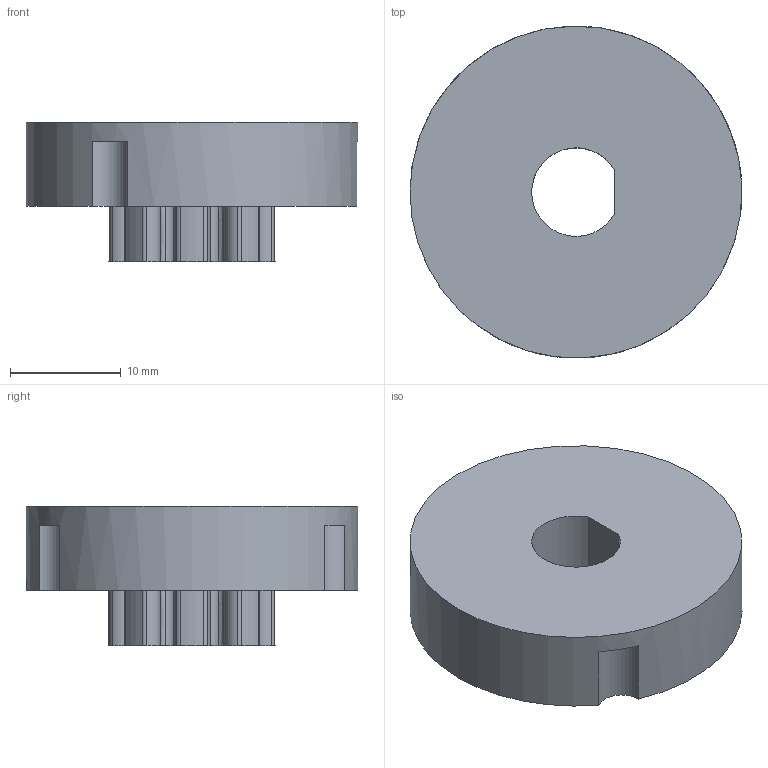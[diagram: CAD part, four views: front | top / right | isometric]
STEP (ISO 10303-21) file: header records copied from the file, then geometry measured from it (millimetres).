
FILE_DESCRIPTION(/* description */ (''),/* implementation_level */ '2;1');
FILE_NAME(/* name */ 'C:/Users/jakob/Documents/GitHub/fabricatable-machines/humphrey-large-format-cnc/humphrey_v3/parts/pom/40_pinion_dual_gap.step',/* time_stamp */ '2018-08-17T09:16:31+02:00',/* author */ ('jaknil'),/* organization */ (''),/* preprocessor_version */ 'ST-DEVELOPER v17',/* originating_system */ 'Autodesk Translation Framework v7.1.0.215',/* authorisation */ '');
FILE_SCHEMA (('AUTOMOTIVE_DESIGN { 1 0 10303 214 3 1 1 }'));
Length unit declared in the file: millimetre
Products named in the file (1): 40 pinion dual gap
Bounding box: 29.99 x 29.98 x 12.6 mm (x, y, z)
Volume: 5376.7 mm3; surface area: 2746.3 mm2
Topology: 1 solids, 1 shells, 76 faces, 220 edges, 147 vertices
Faces by surface type: cylinder 45, bspline 24, plane 7
Full cylindrical faces by diameter (mm): 30 x1
Entity records: 3297 total; most frequent: CARTESIAN_POINT 1380, ORIENTED_EDGE 440, DIRECTION 343, EDGE_CURVE 220, AXIS2_PLACEMENT_3D 150, VERTEX_POINT 147, CIRCLE 97, B_SPLINE_CURVE_WITH_KNOTS 80
